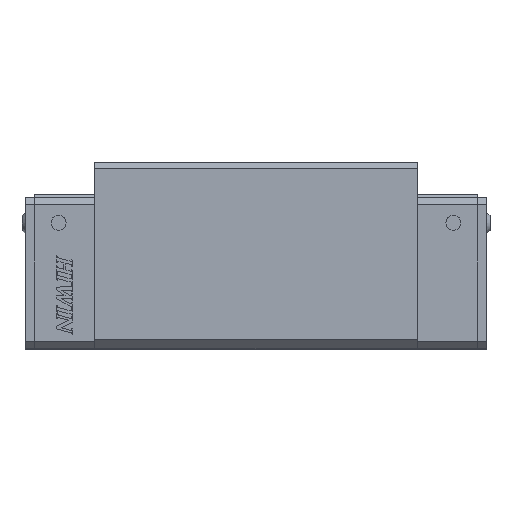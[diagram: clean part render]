
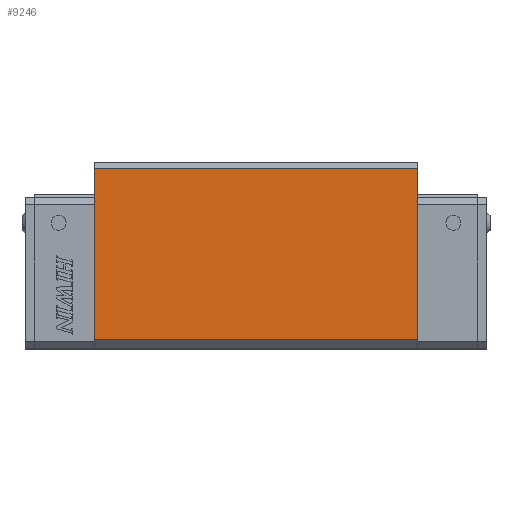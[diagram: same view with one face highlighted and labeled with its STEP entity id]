
A CAD part, top view. The second image highlights one B-rep face of the part: STEP entity #9246.
In plain terms, the highlighted planar face has unit normal (0, 0, 1) as drawn and (-1, 0, 0) by its records, which use the part's own axes.
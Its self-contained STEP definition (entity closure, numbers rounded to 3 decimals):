
#89=PLANE('',#9867);
#605=FACE_OUTER_BOUND('',#1106,.T.);
#1106=EDGE_LOOP('',(#6651,#6652,#6653,#6654));
#1910=LINE('',#13375,#3032);
#1922=LINE('',#13405,#3044);
#1968=LINE('',#13510,#3090);
#1969=LINE('',#13511,#3091);
#3032=VECTOR('',#10688,57.1);
#3044=VECTOR('',#10714,57.1);
#3090=VECTOR('',#10816,107.2);
#3091=VECTOR('',#10817,107.2);
#4168=VERTEX_POINT('',#13372);
#4169=VERTEX_POINT('',#13374);
#4179=VERTEX_POINT('',#13402);
#4180=VERTEX_POINT('',#13404);
#5103=EDGE_CURVE('',#4168,#4169,#1910,.T.);
#5118=EDGE_CURVE('',#4179,#4180,#1922,.T.);
#5171=EDGE_CURVE('',#4169,#4179,#1968,.T.);
#5172=EDGE_CURVE('',#4180,#4168,#1969,.T.);
#6651=ORIENTED_EDGE('',*,*,#5171,.F.);
#6652=ORIENTED_EDGE('',*,*,#5103,.F.);
#6653=ORIENTED_EDGE('',*,*,#5172,.F.);
#6654=ORIENTED_EDGE('',*,*,#5118,.F.);
#9246=ADVANCED_FACE('',(#605),#89,.F.);
#9867=AXIS2_PLACEMENT_3D('',#13509,#10814,#10815);
#10688=DIRECTION('',(0.,-1.,0.));
#10714=DIRECTION('',(0.,1.,0.));
#10814=DIRECTION('center_axis',(1.,0.,0.));
#10815=DIRECTION('ref_axis',(0.,0.,-1.));
#10816=DIRECTION('',(0.,0.,-1.));
#10817=DIRECTION('',(0.,0.,1.));
#13372=CARTESIAN_POINT('',(-43.,-1.9,53.6));
#13374=CARTESIAN_POINT('',(-43.,-59.,53.6));
#13375=CARTESIAN_POINT('',(-43.,-1.9,53.6));
#13402=CARTESIAN_POINT('',(-43.,-59.,-53.6));
#13404=CARTESIAN_POINT('',(-43.,-1.9,-53.6));
#13405=CARTESIAN_POINT('',(-43.,-59.,-53.6));
#13509=CARTESIAN_POINT('Origin',(-43.,-1.9,0.));
#13510=CARTESIAN_POINT('',(-43.,-59.,53.6));
#13511=CARTESIAN_POINT('',(-43.,-1.9,-53.6));
